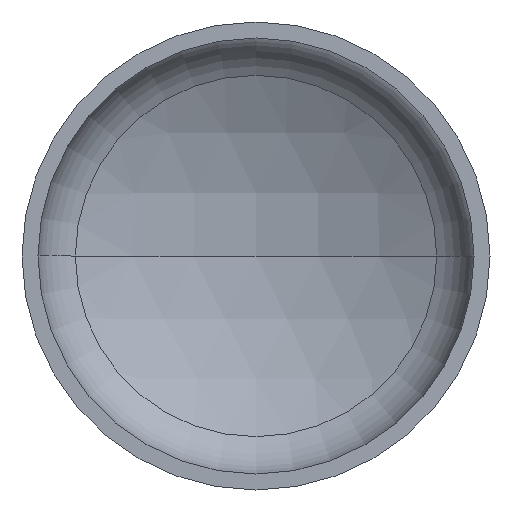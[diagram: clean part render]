
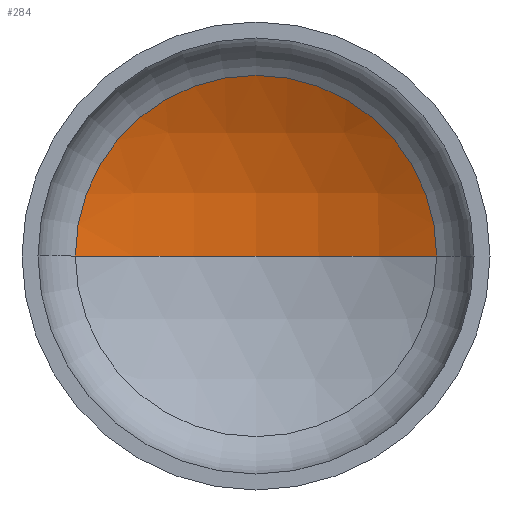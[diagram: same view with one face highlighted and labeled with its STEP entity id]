
A CAD part, front view. The second image highlights one B-rep face of the part: STEP entity #284.
In plain terms, the highlighted spherical face has radius 1920 mm.
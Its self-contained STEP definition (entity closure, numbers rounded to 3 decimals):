
#4 = AXIS2_PLACEMENT_3D ( 'NONE', #179, #43, #168 ) ;
#7 = CARTESIAN_POINT ( 'NONE',  ( 0., -1257.57, 0. ) ) ;
#14 = EDGE_LOOP ( 'NONE', ( #369, #58, #17 ) ) ;
#17 = ORIENTED_EDGE ( 'NONE', *, *, #99, .T. ) ;
#21 = VERTEX_POINT ( 'NONE', #269 ) ;
#32 = AXIS2_PLACEMENT_3D ( 'NONE', #191, #216, #379 ) ;
#35 = AXIS2_PLACEMENT_3D ( 'NONE', #7, #160, #190 ) ;
#36 = AXIS2_PLACEMENT_3D ( 'NONE', #401, #167, #353 ) ;
#43 = DIRECTION ( 'NONE',  ( 0., 0., -1. ) ) ;
#58 = ORIENTED_EDGE ( 'NONE', *, *, #101, .T. ) ;
#99 = EDGE_CURVE ( 'NONE', #102, #115, #166, .T. ) ;
#101 = EDGE_CURVE ( 'NONE', #21, #102, #408, .T. ) ;
#102 = VERTEX_POINT ( 'NONE', #201 ) ;
#105 = EDGE_CURVE ( 'NONE', #21, #115, #347, .T. ) ;
#115 = VERTEX_POINT ( 'NONE', #164 ) ;
#160 = DIRECTION ( 'NONE',  ( 0., 0., -1. ) ) ;
#164 = CARTESIAN_POINT ( 'NONE',  ( -926.555, 424.065, 0. ) ) ;
#166 = CIRCLE ( 'NONE', #36, 926.555 ) ;
#167 = DIRECTION ( 'NONE',  ( 0., -1., 0. ) ) ;
#168 = DIRECTION ( 'NONE',  ( -1., 0., 0. ) ) ;
#179 = CARTESIAN_POINT ( 'NONE',  ( 0., -1257.57, 0. ) ) ;
#190 = DIRECTION ( 'NONE',  ( -1., 0., 0. ) ) ;
#191 = CARTESIAN_POINT ( 'NONE',  ( 0., -1257.57, 0. ) ) ;
#201 = CARTESIAN_POINT ( 'NONE',  ( 926.555, 424.065, 0. ) ) ;
#216 = DIRECTION ( 'NONE',  ( 0., 0., 1. ) ) ;
#217 = SPHERICAL_SURFACE ( 'NONE', #4, 1920. ) ;
#269 = CARTESIAN_POINT ( 'NONE',  ( 0., 662.43, 0. ) ) ;
#284 = ADVANCED_FACE ( 'NONE', ( #325 ), #217, .F. ) ;
#325 = FACE_OUTER_BOUND ( 'NONE', #14, .T. ) ;
#347 = CIRCLE ( 'NONE', #32, 1920. ) ;
#353 = DIRECTION ( 'NONE',  ( 1., 0., 0. ) ) ;
#369 = ORIENTED_EDGE ( 'NONE', *, *, #105, .F. ) ;
#379 = DIRECTION ( 'NONE',  ( 1., 0., 0. ) ) ;
#401 = CARTESIAN_POINT ( 'NONE',  ( 0., 424.065, 0. ) ) ;
#408 = CIRCLE ( 'NONE', #35, 1920. ) ;
